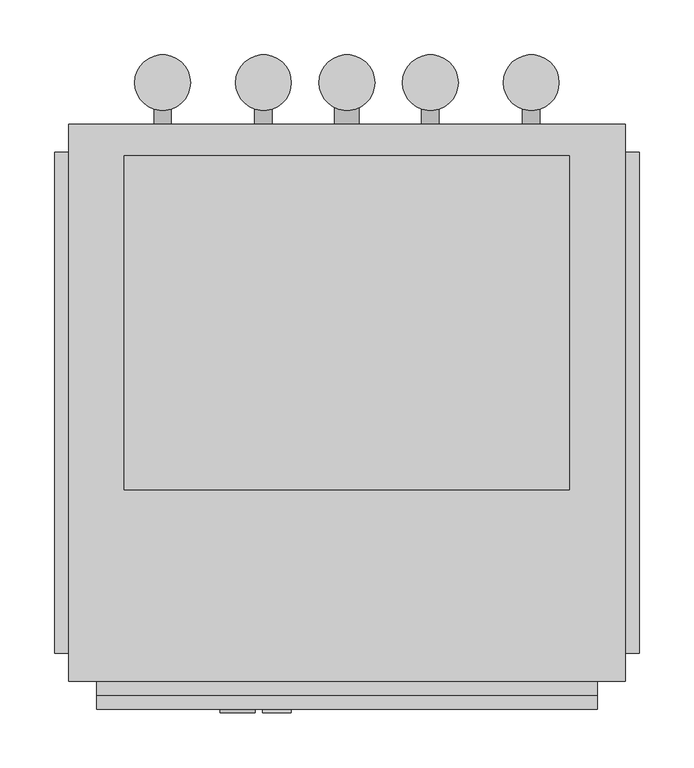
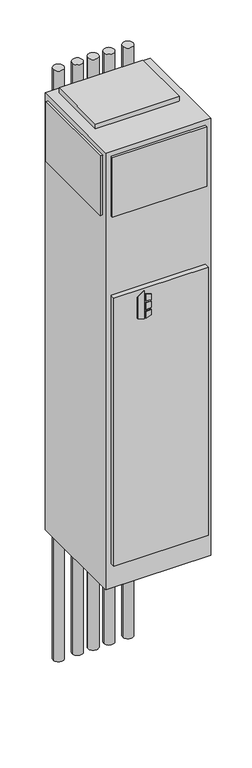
"""IFC4 building model written with IfcOpenShell, lengths in millimetres: proxy geometry, Concealed_Universal_Modular_Fan_Coil_Unit_-_MUY_-_IEC_-_4-Pipe_-_WithRisers_2022 : Size 06 - 277v/60Hz/1Ph - 4/1 Coil."""

import ifcopenshell
import ifcopenshell.guid

model = None  # the IFC model being written
_history = None  # IfcOwnerHistory: only IFC2X3 demands one
_inside = {}  # id of a spatial element -> (the spatial element, [elements in it])
_under = {}  # id of a project, library or spatial element -> (it, [spatial elements below it])
_declared = {}  # id of a project -> (the project, [libraries it declares])
_typed = {}  # id of a type object -> (the type object, [elements of that type])
_made_of = {}  # id of a material, layer set ... -> (it, [elements and type objects made of it])


def new_model(schema):
    """Start an empty IFC model of exactly this schema.

    Asked for "IFC4X3", IfcOpenShell would pick the latest addendum, in which some entities
    have other attributes; the version numbers below select the first issue.
    IFC2X3 requires an IfcOwnerHistory on every rooted entity: one is made here for all.
    """
    global model, _history
    if schema == "IFC4X3":
        model = ifcopenshell.file(schema_version=(4, 3, 0, 0))
    else:
        model = ifcopenshell.file(schema=schema)
    _inside.clear()
    _under.clear()
    _declared.clear()
    _typed.clear()
    _made_of.clear()
    _history = None
    if model.schema == "IFC2X3":
        org = make("IfcOrganization", Name="unknown")
        user = make(
            "IfcPersonAndOrganization",
            ThePerson=make("IfcPerson", FamilyName="unknown"),
            TheOrganization=org,
        )
        app = make(
            "IfcApplication",
            ApplicationDeveloper=org,
            Version="unknown",
            ApplicationFullName="unknown",
            ApplicationIdentifier="unknown",
        )
        _history = make(
            "IfcOwnerHistory",
            OwningUser=user,
            OwningApplication=app,
            ChangeAction="ADDED",
            CreationDate=0,
        )
    return model


def make(cls, **values):
    """One entity of the class cls with the attributes given. An attribute that is None is left unset."""
    return model.create_entity(
        cls, **{name: value for name, value in values.items() if value is not None}
    )


def rooted(cls, **values):
    """An entity with a GlobalId (a new one), such as an element, a storey or a relation."""
    return make(cls, GlobalId=ifcopenshell.guid.new(), OwnerHistory=_history, **values)


def si_unit(unit_type, name, prefix=None):
    """IfcSIUnit, for example si_unit("LENGTHUNIT", "METRE", prefix="MILLI")."""
    return make("IfcSIUnit", UnitType=unit_type, Prefix=prefix, Name=name)


def assignment(units):
    """IfcUnitAssignment: the units of a project."""
    return None if units is None else make("IfcUnitAssignment", Units=units)


def point(xyz):
    """IfcCartesianPoint."""
    return None if xyz is None else make("IfcCartesianPoint", Coordinates=xyz)


def direction(xyz):
    """IfcDirection."""
    return None if xyz is None else make("IfcDirection", DirectionRatios=xyz)


def frame(location, z_axis=None, x_axis=None):
    """IfcAxis2Placement3D, a coordinate frame: its origin and axes. An axis left out is left unset."""
    return make(
        "IfcAxis2Placement3D",
        Location=point(location),
        Axis=direction(z_axis),
        RefDirection=direction(x_axis),
    )


def frame_2d(location, x_axis=None):
    """IfcAxis2Placement2D, a coordinate frame in the plane: its origin and x axis."""
    return make(
        "IfcAxis2Placement2D", Location=point(location), RefDirection=direction(x_axis)
    )


def origin():
    """The frame at (0, 0, 0) with its axes left unset."""
    return frame((0.0, 0.0, 0.0))


def origin_with_axes():
    """The frame at (0, 0, 0) with the z axis (0, 0, 1) and the x axis (1, 0, 0) written out."""
    return frame((0.0, 0.0, 0.0), z_axis=(0.0, 0.0, 1.0), x_axis=(1.0, 0.0, 0.0))


def place(relative_to, where):
    """IfcLocalPlacement: puts the frame where relative to a parent placement (None: the world)."""
    return make(
        "IfcLocalPlacement", PlacementRelTo=relative_to, RelativePlacement=where
    )


def context(
    kind, dimensions, precision=None, world=None, true_north=None, identifier=None
):
    """IfcGeometricRepresentationContext, for example the 3D "Model" context."""
    return make(
        "IfcGeometricRepresentationContext",
        ContextIdentifier=identifier,
        ContextType=kind,
        CoordinateSpaceDimension=dimensions,
        Precision=precision,
        WorldCoordinateSystem=world,
        TrueNorth=true_north,
    )


def project(units=None, contexts=None):
    """IfcProject with its units and contexts."""
    return rooted(
        "IfcProject",
        Name="project",
        RepresentationContexts=contexts,
        UnitsInContext=assignment(units),
    )


def spatial(cls, under=None, at=None, **own):
    """A site, building, storey or space (cls), placed at a placement, below another one or the project."""
    s = rooted(cls, ObjectPlacement=at, **own)
    if under is not None:
        _under.setdefault(under.id(), (under, []))[1].append(s)
    return s


def polyline(points):
    """IfcPolyline through the points."""
    return make("IfcPolyline", Points=[point(p) for p in points])


def circle_curve(where, radius):
    """IfcCircle in the frame where."""
    return make("IfcCircle", Position=where, Radius=radius)


def trimmed(basis, trim1, trim2, sense, master):
    """IfcTrimmedCurve: the piece of a basis curve between two trims."""
    return make(
        "IfcTrimmedCurve",
        BasisCurve=basis,
        Trim1=trim1,
        Trim2=trim2,
        SenseAgreement=sense,
        MasterRepresentation=master,
    )


def segment(curve, same_sense, transition):
    """IfcCompositeCurveSegment."""
    return make(
        "IfcCompositeCurveSegment",
        Transition=transition,
        SameSense=same_sense,
        ParentCurve=curve,
    )


def composite_curve(segments, self_intersect=None):
    """IfcCompositeCurve: segments joined end to end."""
    return make("IfcCompositeCurve", Segments=segments, SelfIntersect=self_intersect)


def outline(outer, holes=None, kind="AREA"):
    """IfcArbitraryClosedProfileDef: a profile drawn as a closed curve; with holes, ...WithVoids."""
    if holes is None:
        return make("IfcArbitraryClosedProfileDef", ProfileType=kind, OuterCurve=outer)
    return make(
        "IfcArbitraryProfileDefWithVoids",
        ProfileType=kind,
        OuterCurve=outer,
        InnerCurves=holes,
    )


def extrude(swept, where, along, depth):
    """IfcExtrudedAreaSolid: the profile swept, set in the frame where, extruded along a direction by depth."""
    return make(
        "IfcExtrudedAreaSolid",
        SweptArea=swept,
        Position=where,
        ExtrudedDirection=direction(along),
        Depth=depth,
    )


def shape(context_of_items, identifier, shape_type, items):
    """IfcShapeRepresentation: the items that make up one representation, for example the "Body"."""
    return make(
        "IfcShapeRepresentation",
        ContextOfItems=context_of_items,
        RepresentationIdentifier=identifier,
        RepresentationType=shape_type,
        Items=items,
    )


def source(mapping_origin, context_of_items, identifier, shape_type, items):
    """IfcRepresentationMap: a shape defined once, which mapped items show again and again."""
    return make(
        "IfcRepresentationMap",
        MappingOrigin=mapping_origin,
        MappedRepresentation=shape(context_of_items, identifier, shape_type, items),
    )


def transform(
    local_origin,
    x_axis=None,
    y_axis=None,
    z_axis=None,
    scale=None,
    scale2=None,
    scale3=None,
    uniform=True,
):
    """IfcCartesianTransformationOperator3D, or its non-uniform kind. x_axis, y_axis, z_axis: its Axis1, 2, 3."""
    if uniform:
        return make(
            "IfcCartesianTransformationOperator3D",
            Axis1=direction(x_axis),
            Axis2=direction(y_axis),
            LocalOrigin=point(local_origin),
            Scale=scale,
            Axis3=direction(z_axis),
        )
    return make(
        "IfcCartesianTransformationOperator3DnonUniform",
        Axis1=direction(x_axis),
        Axis2=direction(y_axis),
        LocalOrigin=point(local_origin),
        Scale=scale,
        Axis3=direction(z_axis),
        Scale2=scale2,
        Scale3=scale3,
    )


def mapped(mapping_source, mapping_target):
    """IfcMappedItem: shows the shape of a source again, moved by a transform."""
    return make(
        "IfcMappedItem", MappingSource=mapping_source, MappingTarget=mapping_target
    )


def made_of(thing, what):
    """Note that an element or type object is made of a material, layer set ...; save() writes the relation."""
    if what is not None:
        _made_of.setdefault(what.id(), (what, []))[1].append(thing)
    return thing


def element(
    cls,
    number,
    at=None,
    inside=None,
    cuts=None,
    type_object=None,
    material=None,
    context=None,
    identifier="Body",
    shape_type=None,
    held_by="IfcProductDefinitionShape",
    body=None,
    shapes=None,
    **own,
):
    """One element of the class cls, such as IfcWall. Its Tag is "e" and its number.

    at: its placement. inside: the storey or other place that contains it. cuts: it is an
    opening in that element (IfcRelVoidsElement). A single representation is given by context,
    identifier, shape_type and body (its items); several are given by shapes. held_by: the class
    of the entity that holds the representations. save() writes the other relations.
    """
    e = rooted(cls, Tag="e%d" % number, ObjectPlacement=at, **own)
    if body is not None:
        shapes = [shape(context, identifier, shape_type, body)]
    if shapes is not None:
        e.Representation = make(held_by, Representations=shapes)
    if inside is not None:
        _inside.setdefault(inside.id(), (inside, []))[1].append(e)
    if cuts is not None:
        rooted(
            "IfcRelVoidsElement", RelatingBuildingElement=cuts, RelatedOpeningElement=e
        )
    if type_object is not None:
        _typed.setdefault(type_object.id(), (type_object, []))[1].append(e)
    return made_of(e, material)


def aggregate(whole, parts):
    """IfcRelAggregates: a whole, such as a stair, and the parts it consists of."""
    return rooted("IfcRelAggregates", RelatingObject=whole, RelatedObjects=parts)


def save(model, path):
    """Write the relations noted so far, then the file.

    IfcRelAggregates (storeys below a building ...), IfcRelContainedInSpatialStructure (elements
    in a storey), IfcRelDefinesByType, IfcRelAssociatesMaterial and IfcRelDeclares: one each for
    every whole, place, type object, material and project.
    """
    for whole, parts in _under.values():
        aggregate(whole, parts)
    for where, things in _inside.values():
        rooted(
            "IfcRelContainedInSpatialStructure",
            RelatedElements=things,
            RelatingStructure=where,
        )
    for kind, things in _typed.values():
        rooted("IfcRelDefinesByType", RelatedObjects=things, RelatingType=kind)
    for what, things in _made_of.values():
        rooted("IfcRelAssociatesMaterial", RelatedObjects=things, RelatingMaterial=what)
    for by, libraries in _declared.values():
        rooted("IfcRelDeclares", RelatingContext=by, RelatedDefinitions=libraries)
    model.write(path)


def mechanical_equipment_9157e768(model_context):
    return source(origin(), model_context, "Body", "SweptSolid", [
        extrude(outline(polyline([(1356.1480703, 290.5868862), (1346.2, 322.7602728), (1488.3709244, 322.7602728), (1465.3489183, 290.5868862), (1356.1480703, 290.5868862)])), frame((0.0, -292.1, 0.0), z_axis=(0.0, 1.0, 0.0), x_axis=(0.0, 0.0, 1.0)), (0.0, 0.0, 1.0), 3.175),
        extrude(outline(polyline([(1435.1473557, 329.5186058), (1431.9449632, 355.6), (1461.1738042, 355.6), (1469.2382193, 329.5186058), (1435.1473557, 329.5186058)])), frame((0.0, -292.1, 0.0), z_axis=(0.0, 1.0, 0.0), x_axis=(0.0, 0.0, 1.0)), (0.0, 0.0, 1.0), 3.175),
        extrude(outline(polyline([(1383.2838288, 355.6), (1379.6183279, 329.5186058), (1346.2, 329.5186058), (1354.8342372, 355.6), (1383.2838288, 355.6)])), frame((0.0, -292.1, 0.0), z_axis=(0.0, 1.0, 0.0), x_axis=(0.0, 0.0, 1.0)), (0.0, 0.0, 1.0), 3.175),
        extrude(outline(polyline([(1422.5989903, 355.6), (1424.8808166, 329.5186058), (1388.9432681, 329.5186058), (1391.6845331, 355.6), (1422.5989903, 355.6)])), frame((0.0, -292.1, 0.0), z_axis=(0.0, 1.0, 0.0), x_axis=(0.0, 0.0, 1.0)), (0.0, 0.0, 1.0), 3.175),
        extrude(outline(composite_curve([segment(trimmed(circle_curve(frame_2d((238.125, 282.575)), 25.4), [point((212.725, 282.575))], [point((263.525, 282.575))], False, "CARTESIAN"), True, "CONTINUOUS"), segment(trimmed(circle_curve(frame_2d((238.125, 282.575)), 25.4), [point((263.525, 282.575))], [point((212.725, 282.575))], False, "CARTESIAN"), True, "CONTINUOUS")], self_intersect=False)), frame((0.0, 0.0, -711.2), z_axis=(0.0, 0.0, 1.0), x_axis=(1.0, 0.0, 0.0)), (0.0, 0.0, 1.0), 3022.6),
        extrude(outline(composite_curve([segment(trimmed(circle_curve(frame_2d((330.2, 282.575)), 25.4), [point((304.8, 282.575))], [point((355.6, 282.575))], False, "CARTESIAN"), True, "CONTINUOUS"), segment(trimmed(circle_curve(frame_2d((330.2, 282.575)), 25.4), [point((355.6, 282.575))], [point((304.8, 282.575))], False, "CARTESIAN"), True, "CONTINUOUS")], self_intersect=False)), frame((0.0, 0.0, -711.2), z_axis=(0.0, 0.0, 1.0), x_axis=(1.0, 0.0, 0.0)), (0.0, 0.0, 1.0), 3022.6),
        extrude(outline(composite_curve([segment(trimmed(circle_curve(frame_2d((406.4, 282.575)), 25.4), [point((381.0, 282.575))], [point((431.8, 282.575))], False, "CARTESIAN"), True, "CONTINUOUS"), segment(trimmed(circle_curve(frame_2d((406.4, 282.575)), 25.4), [point((431.8, 282.575))], [point((381.0, 282.575))], False, "CARTESIAN"), True, "CONTINUOUS")], self_intersect=False)), frame((0.0, 0.0, -711.2), z_axis=(0.0, 0.0, 1.0), x_axis=(1.0, 0.0, 0.0)), (0.0, 0.0, 1.0), 3022.6),
        extrude(outline(composite_curve([segment(trimmed(circle_curve(frame_2d((482.6, 282.575)), 25.4), [point((457.2, 282.575))], [point((508.0, 282.575))], False, "CARTESIAN"), True, "CONTINUOUS"), segment(trimmed(circle_curve(frame_2d((482.6, 282.575)), 25.4), [point((508.0, 282.575))], [point((457.2, 282.575))], False, "CARTESIAN"), True, "CONTINUOUS")], self_intersect=False)), frame((0.0, 0.0, -711.2), z_axis=(0.0, 0.0, 1.0), x_axis=(1.0, 0.0, 0.0)), (0.0, 0.0, 1.0), 3022.6),
        extrude(outline(composite_curve([segment(trimmed(circle_curve(frame_2d((574.675, 282.575)), 25.4), [point((549.275, 282.575))], [point((600.075, 282.575))], False, "CARTESIAN"), True, "CONTINUOUS"), segment(trimmed(circle_curve(frame_2d((574.675, 282.575)), 25.4), [point((600.075, 282.575))], [point((549.275, 282.575))], False, "CARTESIAN"), True, "CONTINUOUS")], self_intersect=False)), frame((0.0, 0.0, -711.2), z_axis=(0.0, 0.0, 1.0), x_axis=(1.0, 0.0, 0.0)), (0.0, 0.0, 1.0), 3022.6),
        extrude(outline(composite_curve([segment(trimmed(circle_curve(frame_2d((990.6, 574.675)), 7.9375), [point((990.6, 566.7375))], [point((990.6, 582.6125))], False, "CARTESIAN"), True, "CONTINUOUS"), segment(trimmed(circle_curve(frame_2d((990.6, 574.675)), 7.9375), [point((990.6, 582.6125))], [point((990.6, 566.7375))], False, "CARTESIAN"), True, "CONTINUOUS")], self_intersect=False)), frame((0.0, 244.475, 0.0), z_axis=(0.0, 1.0, 0.0), x_axis=(0.0, 0.0, 1.0)), (0.0, 0.0, 1.0), 50.8),
        extrude(outline(composite_curve([segment(trimmed(circle_curve(frame_2d((990.6, 482.6)), 7.9375), [point((990.6, 474.6625))], [point((990.6, 490.5375))], False, "CARTESIAN"), True, "CONTINUOUS"), segment(trimmed(circle_curve(frame_2d((990.6, 482.6)), 7.9375), [point((990.6, 490.5375))], [point((990.6, 474.6625))], False, "CARTESIAN"), True, "CONTINUOUS")], self_intersect=False)), frame((0.0, 244.475, 0.0), z_axis=(0.0, 1.0, 0.0), x_axis=(0.0, 0.0, 1.0)), (0.0, 0.0, 1.0), 50.8),
        extrude(outline(composite_curve([segment(trimmed(circle_curve(frame_2d((990.6, 330.2)), 7.9375), [point((990.6, 322.2625))], [point((990.6, 338.1375))], False, "CARTESIAN"), True, "CONTINUOUS"), segment(trimmed(circle_curve(frame_2d((990.6, 330.2)), 7.9375), [point((990.6, 338.1375))], [point((990.6, 322.2625))], False, "CARTESIAN"), True, "CONTINUOUS")], self_intersect=False)), frame((0.0, 244.475, 0.0), z_axis=(0.0, 1.0, 0.0), x_axis=(0.0, 0.0, 1.0)), (0.0, 0.0, 1.0), 50.8),
        extrude(outline(composite_curve([segment(trimmed(circle_curve(frame_2d((990.6, 238.125)), 7.9375), [point((990.6, 230.1875))], [point((990.6, 246.0625))], False, "CARTESIAN"), True, "CONTINUOUS"), segment(trimmed(circle_curve(frame_2d((990.6, 238.125)), 7.9375), [point((990.6, 246.0625))], [point((990.6, 230.1875))], False, "CARTESIAN"), True, "CONTINUOUS")], self_intersect=False)), frame((0.0, 244.475, 0.0), z_axis=(0.0, 1.0, 0.0), x_axis=(0.0, 0.0, 1.0)), (0.0, 0.0, 1.0), 50.8),
        extrude(outline(composite_curve([segment(trimmed(circle_curve(frame_2d((76.2, 406.4)), 11.1125), [point((76.2, 395.2875))], [point((76.2, 417.5125))], False, "CARTESIAN"), True, "CONTINUOUS"), segment(trimmed(circle_curve(frame_2d((76.2, 406.4)), 11.1125), [point((76.2, 417.5125))], [point((76.2, 395.2875))], False, "CARTESIAN"), True, "CONTINUOUS")], self_intersect=False)), frame((0.0, 244.475, 0.0), z_axis=(0.0, 1.0, 0.0), x_axis=(0.0, 0.0, 1.0)), (0.0, 0.0, 1.0), 50.8),
        extrude(outline(polyline([(609.6, 215.9), (609.6, -88.9), (203.2, -88.9), (203.2, 215.9), (609.6, 215.9)])), frame((0.0, 0.0, 2235.2), z_axis=(0.0, 0.0, 1.0), x_axis=(1.0, 0.0, 0.0)), (0.0, 0.0, 1.0), 25.4),
        extrude(outline(polyline([(139.7, -238.125), (139.7, 219.075), (152.4, 219.075), (152.4, -238.125), (139.7, -238.125)])), frame((0.0, 0.0, 1905.0), z_axis=(0.0, 0.0, 1.0), x_axis=(1.0, 0.0, 0.0)), (0.0, 0.0, 1.0), 304.8),
        extrude(outline(polyline([(673.1, 219.075), (673.1, -238.125), (660.4, -238.125), (660.4, 219.075), (673.1, 219.075)])), frame((0.0, 0.0, 1905.0), z_axis=(0.0, 0.0, 1.0), x_axis=(1.0, 0.0, 0.0)), (0.0, 0.0, 1.0), 304.8),
        extrude(outline(polyline([(635.0, -276.225), (177.8, -276.225), (177.8, -263.525), (635.0, -263.525), (635.0, -276.225)])), frame((0.0, 0.0, 1905.0), z_axis=(0.0, 0.0, 1.0), x_axis=(1.0, 0.0, 0.0)), (0.0, 0.0, 1.0), 304.8),
        extrude(outline(polyline([(635.0, -288.925), (177.8, -288.925), (177.8, -263.525), (635.0, -263.525), (635.0, -288.925)])), frame((0.0, 0.0, 127.0), z_axis=(0.0, 0.0, 1.0), x_axis=(1.0, 0.0, 0.0)), (0.0, 0.0, 1.0), 1371.6),
        extrude(outline(polyline([(660.4, 244.475), (660.4, -263.525), (152.4, -263.525), (152.4, 244.475), (660.4, 244.475)])), origin_with_axes(), (0.0, 0.0, 1.0), 2235.2),
    ])


if __name__ == "__main__":
    model = new_model("IFC4")
    model_context = context("Model", 3, world=origin())
    ifc_project = project(units=[si_unit("LENGTHUNIT", "METRE", prefix="MILLI")], contexts=[model_context])
    site = spatial("IfcSite", under=ifc_project)
    building = spatial("IfcBuilding", under=site)
    placement = place(None, origin())
    mechanical_equipment_shape = mechanical_equipment_9157e768(model_context)
    element("IfcBuildingElementProxy", 1, Name="Concealed_Universal_Modular_Fan_Coil_Unit_-_MUY_-_IEC_-_4-Pipe_-_WithRisers_2022 : Size 06 - 277v/60Hz/1Ph - 4/1 Coil", ObjectType="Concealed_Universal_Modular_Fan_Coil_Unit_-_MUY_-_IEC_-_4-Pipe_-_WithRisers_2022 : Size 06 - 277v/60Hz/1Ph - 4/1 Coil", at=placement, inside=building, context=model_context, shape_type="MappedRepresentation", body=[
        mapped(mechanical_equipment_shape, transform((0.0, 0.0, 0.0), x_axis=(1.0, 0.0, 0.0), y_axis=(0.0, 1.0, 0.0), z_axis=(0.0, 0.0, 1.0))),
    ])
    save(model, "model.ifc")
